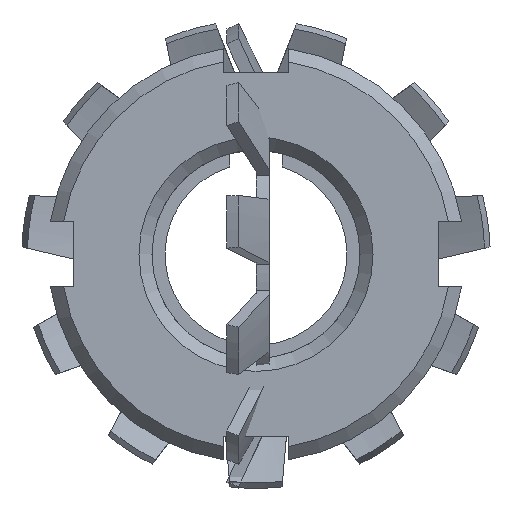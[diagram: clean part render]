
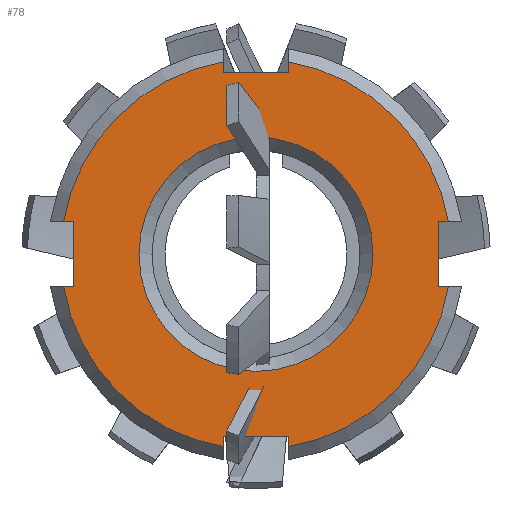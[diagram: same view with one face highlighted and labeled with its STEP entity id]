
A CAD part, front view. The second image highlights one B-rep face of the part: STEP entity #78.
In plain terms, the highlighted planar face has unit normal (0, -1, 0).
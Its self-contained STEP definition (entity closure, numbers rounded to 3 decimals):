
#78 = ADVANCED_FACE( '', ( #174, #175 ), #176, .F. );
#174 = FACE_BOUND( '', #304, .T. );
#175 = FACE_OUTER_BOUND( '', #305, .T. );
#176 = PLANE( '', #306 );
#304 = EDGE_LOOP( '', ( #497 ) );
#305 = EDGE_LOOP( '', ( #498, #499, #500, #501, #502, #503, #504, #505, #506, #507, #508, #509, #510, #511, #512, #513 ) );
#306 = AXIS2_PLACEMENT_3D( '', #514, #515, #516 );
#497 = ORIENTED_EDGE( '', *, *, #971, .F. );
#498 = ORIENTED_EDGE( '', *, *, #972, .F. );
#499 = ORIENTED_EDGE( '', *, *, #973, .T. );
#500 = ORIENTED_EDGE( '', *, *, #974, .T. );
#501 = ORIENTED_EDGE( '', *, *, #975, .T. );
#502 = ORIENTED_EDGE( '', *, *, #976, .F. );
#503 = ORIENTED_EDGE( '', *, *, #977, .T. );
#504 = ORIENTED_EDGE( '', *, *, #978, .T. );
#505 = ORIENTED_EDGE( '', *, *, #979, .T. );
#506 = ORIENTED_EDGE( '', *, *, #980, .F. );
#507 = ORIENTED_EDGE( '', *, *, #981, .T. );
#508 = ORIENTED_EDGE( '', *, *, #982, .T. );
#509 = ORIENTED_EDGE( '', *, *, #983, .T. );
#510 = ORIENTED_EDGE( '', *, *, #984, .F. );
#511 = ORIENTED_EDGE( '', *, *, #985, .T. );
#512 = ORIENTED_EDGE( '', *, *, #986, .T. );
#513 = ORIENTED_EDGE( '', *, *, #987, .T. );
#514 = CARTESIAN_POINT( '', ( 0., -9.5, 16. ) );
#515 = DIRECTION( '', ( 0., 1., 0. ) );
#516 = DIRECTION( '', ( 0., 0., 1. ) );
#971 = EDGE_CURVE( '', #1245, #1245, #1246, .T. );
#972 = EDGE_CURVE( '', #1247, #1248, #1249, .T. );
#973 = EDGE_CURVE( '', #1247, #1250, #1251, .T. );
#974 = EDGE_CURVE( '', #1250, #1252, #1253, .T. );
#975 = EDGE_CURVE( '', #1252, #1254, #1255, .F. );
#976 = EDGE_CURVE( '', #1256, #1254, #1257, .T. );
#977 = EDGE_CURVE( '', #1256, #1258, #1259, .T. );
#978 = EDGE_CURVE( '', #1258, #1260, #1261, .T. );
#979 = EDGE_CURVE( '', #1260, #1262, #1263, .F. );
#980 = EDGE_CURVE( '', #1264, #1262, #1265, .T. );
#981 = EDGE_CURVE( '', #1264, #1266, #1267, .T. );
#982 = EDGE_CURVE( '', #1266, #1268, #1269, .T. );
#983 = EDGE_CURVE( '', #1268, #1270, #1271, .F. );
#984 = EDGE_CURVE( '', #1272, #1270, #1273, .T. );
#985 = EDGE_CURVE( '', #1272, #1274, #1275, .T. );
#986 = EDGE_CURVE( '', #1274, #1276, #1277, .T. );
#987 = EDGE_CURVE( '', #1276, #1248, #1278, .F. );
#1245 = VERTEX_POINT( '', #2071 );
#1246 = CIRCLE( '', #2072, 9. );
#1247 = VERTEX_POINT( '', #2073 );
#1248 = VERTEX_POINT( '', #2074 );
#1249 = LINE( '', #2075, #2076 );
#1250 = VERTEX_POINT( '', #2077 );
#1251 = LINE( '', #2078, #2079 );
#1252 = VERTEX_POINT( '', #2080 );
#1253 = LINE( '', #2081, #2082 );
#1254 = VERTEX_POINT( '', #2083 );
#1255 = CIRCLE( '', #2084, 15. );
#1256 = VERTEX_POINT( '', #2085 );
#1257 = LINE( '', #2086, #2087 );
#1258 = VERTEX_POINT( '', #2088 );
#1259 = LINE( '', #2089, #2090 );
#1260 = VERTEX_POINT( '', #2091 );
#1261 = LINE( '', #2092, #2093 );
#1262 = VERTEX_POINT( '', #2094 );
#1263 = CIRCLE( '', #2095, 15. );
#1264 = VERTEX_POINT( '', #2096 );
#1265 = LINE( '', #2097, #2098 );
#1266 = VERTEX_POINT( '', #2099 );
#1267 = LINE( '', #2100, #2101 );
#1268 = VERTEX_POINT( '', #2102 );
#1269 = LINE( '', #2103, #2104 );
#1270 = VERTEX_POINT( '', #2105 );
#1271 = CIRCLE( '', #2106, 15. );
#1272 = VERTEX_POINT( '', #2107 );
#1273 = LINE( '', #2108, #2109 );
#1274 = VERTEX_POINT( '', #2110 );
#1275 = LINE( '', #2111, #2112 );
#1276 = VERTEX_POINT( '', #2113 );
#1277 = LINE( '', #2114, #2115 );
#1278 = CIRCLE( '', #2116, 15. );
#2071 = CARTESIAN_POINT( '', ( 0., -9.5, -9. ) );
#2072 = AXIS2_PLACEMENT_3D( '', #2620, #2621, #2622 );
#2073 = CARTESIAN_POINT( '', ( -14., -9.5, 2.5 ) );
#2074 = CARTESIAN_POINT( '', ( -14.79, -9.5, 2.5 ) );
#2075 = CARTESIAN_POINT( '', ( -16., -9.5, 2.5 ) );
#2076 = VECTOR( '', #2623, 1000. );
#2077 = CARTESIAN_POINT( '', ( -14., -9.5, -2.5 ) );
#2078 = CARTESIAN_POINT( '', ( -14., -9.5, 2.5 ) );
#2079 = VECTOR( '', #2624, 1000. );
#2080 = CARTESIAN_POINT( '', ( -14.79, -9.5, -2.5 ) );
#2081 = CARTESIAN_POINT( '', ( -16., -9.5, -2.5 ) );
#2082 = VECTOR( '', #2625, 1000. );
#2083 = CARTESIAN_POINT( '', ( -2.5, -9.5, -14.79 ) );
#2084 = AXIS2_PLACEMENT_3D( '', #2626, #2627, #2628 );
#2085 = CARTESIAN_POINT( '', ( -2.5, -9.5, -14. ) );
#2086 = CARTESIAN_POINT( '', ( -2.5, -9.5, -16. ) );
#2087 = VECTOR( '', #2629, 1000. );
#2088 = CARTESIAN_POINT( '', ( 2.5, -9.5, -14. ) );
#2089 = CARTESIAN_POINT( '', ( -2.5, -9.5, -14. ) );
#2090 = VECTOR( '', #2630, 1000. );
#2091 = CARTESIAN_POINT( '', ( 2.5, -9.5, -14.79 ) );
#2092 = CARTESIAN_POINT( '', ( 2.5, -9.5, -16. ) );
#2093 = VECTOR( '', #2631, 1000. );
#2094 = CARTESIAN_POINT( '', ( 14.79, -9.5, -2.5 ) );
#2095 = AXIS2_PLACEMENT_3D( '', #2632, #2633, #2634 );
#2096 = CARTESIAN_POINT( '', ( 14., -9.5, -2.5 ) );
#2097 = CARTESIAN_POINT( '', ( 16., -9.5, -2.5 ) );
#2098 = VECTOR( '', #2635, 1000. );
#2099 = CARTESIAN_POINT( '', ( 14., -9.5, 2.5 ) );
#2100 = CARTESIAN_POINT( '', ( 14., -9.5, -2.5 ) );
#2101 = VECTOR( '', #2636, 1000. );
#2102 = CARTESIAN_POINT( '', ( 14.79, -9.5, 2.5 ) );
#2103 = CARTESIAN_POINT( '', ( 16., -9.5, 2.5 ) );
#2104 = VECTOR( '', #2637, 1000. );
#2105 = CARTESIAN_POINT( '', ( 2.5, -9.5, 14.79 ) );
#2106 = AXIS2_PLACEMENT_3D( '', #2638, #2639, #2640 );
#2107 = CARTESIAN_POINT( '', ( 2.5, -9.5, 14. ) );
#2108 = CARTESIAN_POINT( '', ( 2.5, -9.5, 16. ) );
#2109 = VECTOR( '', #2641, 1000. );
#2110 = CARTESIAN_POINT( '', ( -2.5, -9.5, 14. ) );
#2111 = CARTESIAN_POINT( '', ( 2.5, -9.5, 14. ) );
#2112 = VECTOR( '', #2642, 1000. );
#2113 = CARTESIAN_POINT( '', ( -2.5, -9.5, 14.79 ) );
#2114 = CARTESIAN_POINT( '', ( -2.5, -9.5, 16. ) );
#2115 = VECTOR( '', #2643, 1000. );
#2116 = AXIS2_PLACEMENT_3D( '', #2644, #2645, #2646 );
#2620 = CARTESIAN_POINT( '', ( 0., -9.5, 0. ) );
#2621 = DIRECTION( '', ( 0., -1., 0. ) );
#2622 = DIRECTION( '', ( 0., 0., -1. ) );
#2623 = DIRECTION( '', ( -1., 0., 0. ) );
#2624 = DIRECTION( '', ( 0., 0., -1. ) );
#2625 = DIRECTION( '', ( -1., 0., 0. ) );
#2626 = CARTESIAN_POINT( '', ( 0., -9.5, 0. ) );
#2627 = DIRECTION( '', ( 0., 1., 0. ) );
#2628 = DIRECTION( '', ( 0., 0., 1. ) );
#2629 = DIRECTION( '', ( 0., 0., -1. ) );
#2630 = DIRECTION( '', ( 1., 0., 0. ) );
#2631 = DIRECTION( '', ( 0., 0., -1. ) );
#2632 = CARTESIAN_POINT( '', ( 0., -9.5, 0. ) );
#2633 = DIRECTION( '', ( 0., 1., 0. ) );
#2634 = DIRECTION( '', ( 0., 0., 1. ) );
#2635 = DIRECTION( '', ( 1., 0., 0. ) );
#2636 = DIRECTION( '', ( 0., 0., 1. ) );
#2637 = DIRECTION( '', ( 1., 0., 0. ) );
#2638 = CARTESIAN_POINT( '', ( 0., -9.5, 0. ) );
#2639 = DIRECTION( '', ( 0., 1., 0. ) );
#2640 = DIRECTION( '', ( 0., 0., 1. ) );
#2641 = DIRECTION( '', ( 0., 0., 1. ) );
#2642 = DIRECTION( '', ( -1., 0., 0. ) );
#2643 = DIRECTION( '', ( 0., 0., 1. ) );
#2644 = CARTESIAN_POINT( '', ( 0., -9.5, 0. ) );
#2645 = DIRECTION( '', ( 0., 1., 0. ) );
#2646 = DIRECTION( '', ( 0., 0., 1. ) );
